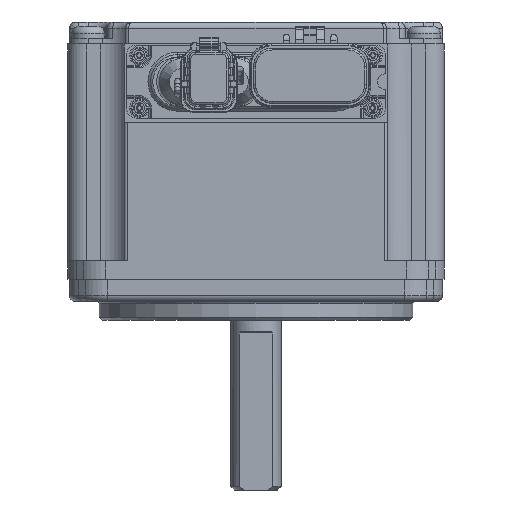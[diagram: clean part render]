
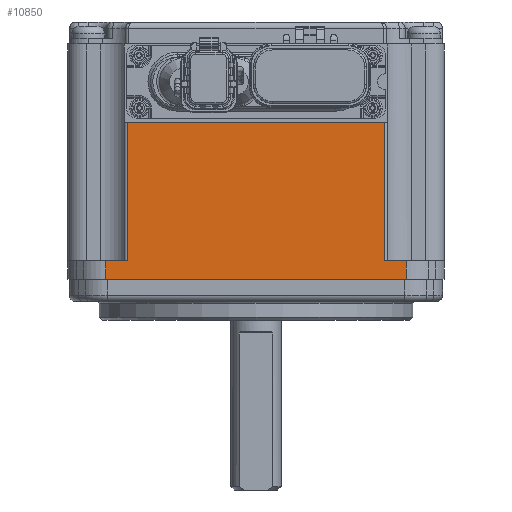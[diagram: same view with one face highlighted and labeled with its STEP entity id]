
A CAD part, front view. The second image highlights one B-rep face of the part: STEP entity #10850.
In plain terms, the highlighted planar face has unit normal (0, -1, 0).
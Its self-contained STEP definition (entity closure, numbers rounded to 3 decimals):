
#5042=PLANE('',#33981);
#5631=FACE_OUTER_BOUND('',#15211,.T.);
#6947=LINE('',#46249,#8841);
#6984=LINE('',#46412,#8878);
#6986=LINE('',#46418,#8880);
#6987=LINE('',#46420,#8881);
#7008=LINE('',#46484,#8902);
#7010=LINE('',#46490,#8904);
#7027=LINE('',#46534,#8921);
#7042=LINE('',#46570,#8936);
#8841=VECTOR('',#37591,1.);
#8878=VECTOR('',#37720,1.);
#8880=VECTOR('',#37726,1.);
#8881=VECTOR('',#37729,1.);
#8902=VECTOR('',#37792,1.);
#8904=VECTOR('',#37798,1.);
#8921=VECTOR('',#37851,1.);
#8936=VECTOR('',#37892,1.);
#10850=ADVANCED_FACE('',(#5631),#5042,.F.);
#15211=EDGE_LOOP('',(#18062,#18063,#18064,#18065,#18066,#18067,#18068,#18069));
#18062=ORIENTED_EDGE('',*,*,#27959,.F.);
#18063=ORIENTED_EDGE('',*,*,#27962,.T.);
#18064=ORIENTED_EDGE('',*,*,#28020,.F.);
#18065=ORIENTED_EDGE('',*,*,#27995,.T.);
#18066=ORIENTED_EDGE('',*,*,#27882,.T.);
#18067=ORIENTED_EDGE('',*,*,#27998,.T.);
#18068=ORIENTED_EDGE('',*,*,#28040,.F.);
#18069=ORIENTED_EDGE('',*,*,#27963,.T.);
#24405=VERTEX_POINT('',#46248);
#24406=VERTEX_POINT('',#46250);
#24478=VERTEX_POINT('',#46409);
#24479=VERTEX_POINT('',#46411);
#24481=VERTEX_POINT('',#46417);
#24482=VERTEX_POINT('',#46421);
#24503=VERTEX_POINT('',#46482);
#24505=VERTEX_POINT('',#46489);
#27882=EDGE_CURVE('',#24406,#24405,#6947,.T.);
#27959=EDGE_CURVE('',#24479,#24478,#6984,.T.);
#27962=EDGE_CURVE('',#24479,#24481,#6986,.T.);
#27963=EDGE_CURVE('',#24482,#24478,#6987,.T.);
#27995=EDGE_CURVE('',#24503,#24406,#7008,.T.);
#27998=EDGE_CURVE('',#24405,#24505,#7010,.T.);
#28020=EDGE_CURVE('',#24503,#24481,#7027,.T.);
#28040=EDGE_CURVE('',#24482,#24505,#7042,.T.);
#33981=AXIS2_PLACEMENT_3D('',#46591,#37919,#37920);
#37591=DIRECTION('',(1.,0.,0.));
#37720=DIRECTION('',(1.,0.,0.));
#37726=DIRECTION('',(0.,0.,-1.));
#37729=DIRECTION('',(0.,0.,1.));
#37792=DIRECTION('',(0.,0.,-1.));
#37798=DIRECTION('',(0.,0.,1.));
#37851=DIRECTION('',(1.,0.,0.));
#37892=DIRECTION('',(1.,0.,0.));
#37919=DIRECTION('',(0.,1.,0.));
#37920=DIRECTION('',(-1.,0.,0.));
#46248=CARTESIAN_POINT('',(23.929,-30.,0.));
#46249=CARTESIAN_POINT('',(-30.,-30.,0.));
#46250=CARTESIAN_POINT('',(-23.929,-30.,0.));
#46409=CARTESIAN_POINT('',(20.5,-30.,25.));
#46411=CARTESIAN_POINT('',(-20.5,-30.,25.));
#46412=CARTESIAN_POINT('',(-30.,-30.,25.));
#46417=CARTESIAN_POINT('',(-20.5,-30.,3.));
#46418=CARTESIAN_POINT('',(-20.5,-30.,3.));
#46420=CARTESIAN_POINT('',(20.5,-30.,37.5));
#46421=CARTESIAN_POINT('',(20.5,-30.,3.));
#46482=CARTESIAN_POINT('',(-23.929,-30.,3.));
#46484=CARTESIAN_POINT('',(-23.929,-30.,0.));
#46489=CARTESIAN_POINT('',(23.929,-30.,3.));
#46490=CARTESIAN_POINT('',(23.929,-30.,3.));
#46534=CARTESIAN_POINT('',(-30.,-30.,3.));
#46570=CARTESIAN_POINT('',(21.,-30.,3.));
#46591=CARTESIAN_POINT('',(-30.,-30.,37.5));
